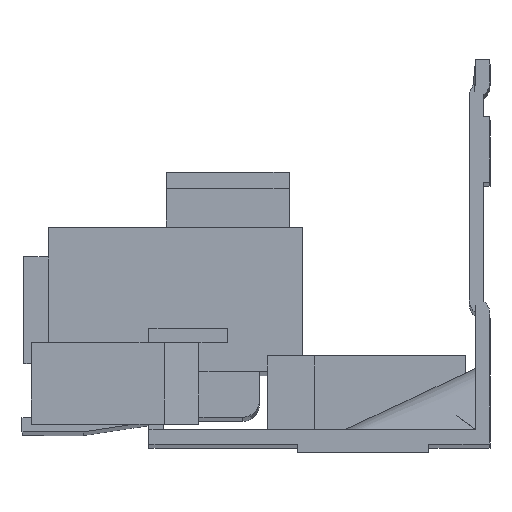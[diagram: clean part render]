
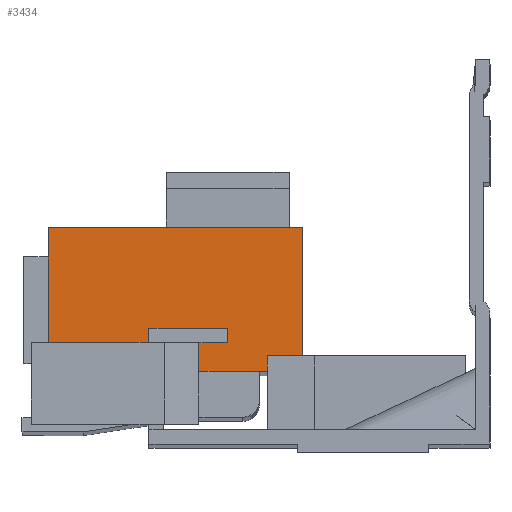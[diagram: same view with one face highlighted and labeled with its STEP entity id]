
A CAD part, front view. The second image highlights one B-rep face of the part: STEP entity #3434.
In plain terms, the highlighted planar face has unit normal (0, -1, 0).
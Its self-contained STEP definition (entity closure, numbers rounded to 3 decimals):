
#257 = FACE_OUTER_BOUND ( 'NONE', #1085, .T. ) ;
#580 = LINE ( 'NONE', #3907, #581 ) ;
#581 = VECTOR ( 'NONE', #3908, 1000. ) ;
#616 = LINE ( 'NONE', #3944, #617 ) ;
#617 = VECTOR ( 'NONE', #3945, 1000. ) ;
#636 = LINE ( 'NONE', #3964, #637 ) ;
#637 = VECTOR ( 'NONE', #3965, 1000. ) ;
#652 = LINE ( 'NONE', #3980, #653 ) ;
#653 = VECTOR ( 'NONE', #3981, 1000. ) ;
#662 = LINE ( 'NONE', #3990, #663 ) ;
#663 = VECTOR ( 'NONE', #3991, 1000. ) ;
#664 = LINE ( 'NONE', #3992, #665 ) ;
#665 = VECTOR ( 'NONE', #3993, 1000. ) ;
#666 = LINE ( 'NONE', #3994, #667 ) ;
#667 = VECTOR ( 'NONE', #3995, 1000. ) ;
#668 = LINE ( 'NONE', #3996, #669 ) ;
#669 = VECTOR ( 'NONE', #3997, 1000. ) ;
#676 = LINE ( 'NONE', #4004, #677 ) ;
#677 = VECTOR ( 'NONE', #4005, 1000. ) ;
#678 = LINE ( 'NONE', #4006, #679 ) ;
#679 = VECTOR ( 'NONE', #4007, 1000. ) ;
#680 = LINE ( 'NONE', #4008, #681 ) ;
#681 = VECTOR ( 'NONE', #4009, 1000. ) ;
#682 = LINE ( 'NONE', #4010, #683 ) ;
#683 = VECTOR ( 'NONE', #4011, 1000. ) ;
#1085 = EDGE_LOOP ( 'NONE', ( #1276, #1277, #1278, #1279, #1280, #1281, #1282, #1283, #1284, #1285, #1286, #1287 ) ) ;
#1276 = ORIENTED_EDGE ( 'NONE', *, *, #4658, .T. ) ;
#1277 = ORIENTED_EDGE ( 'NONE', *, *, #4659, .T. ) ;
#1278 = ORIENTED_EDGE ( 'NONE', *, *, #4660, .T. ) ;
#1279 = ORIENTED_EDGE ( 'NONE', *, *, #4661, .T. ) ;
#1280 = ORIENTED_EDGE ( 'NONE', *, *, #4603, .T. ) ;
#1281 = ORIENTED_EDGE ( 'NONE', *, *, #4636, .T. ) ;
#1282 = ORIENTED_EDGE ( 'NONE', *, *, #4626, .F. ) ;
#1283 = ORIENTED_EDGE ( 'NONE', *, *, #4646, .F. ) ;
#1284 = ORIENTED_EDGE ( 'NONE', *, *, #4651, .F. ) ;
#1285 = ORIENTED_EDGE ( 'NONE', *, *, #4652, .F. ) ;
#1286 = ORIENTED_EDGE ( 'NONE', *, *, #4653, .F. ) ;
#1287 = ORIENTED_EDGE ( 'NONE', *, *, #4654, .T. ) ;
#2152 = PLANE ( 'NONE',  #3558 ) ;
#2153 = CARTESIAN_POINT ( 'NONE',  ( -49.9, -20., -27.058 ) ) ;
#2154 = DIRECTION ( 'NONE',  ( 0., 1., 0. ) ) ;
#2155 = DIRECTION ( 'NONE',  ( -1., 0., 0. ) ) ;
#3434 = ADVANCED_FACE ( 'NONE', ( #257 ), #2152, .F. ) ;
#3558 = AXIS2_PLACEMENT_3D ( 'NONE', #2153, #2154, #2155 ) ;
#3907 = CARTESIAN_POINT ( 'NONE',  ( -53.9, -20., -9.558 ) ) ;
#3908 = DIRECTION ( 'NONE',  ( -1., 0., 0. ) ) ;
#3944 = CARTESIAN_POINT ( 'NONE',  ( -49.9, -20., -23.558 ) ) ;
#3945 = DIRECTION ( 'NONE',  ( -1., 0., 0. ) ) ;
#3964 = CARTESIAN_POINT ( 'NONE',  ( -53.9, -20., -29.558 ) ) ;
#3965 = DIRECTION ( 'NONE',  ( 0., 0., -1. ) ) ;
#3980 = CARTESIAN_POINT ( 'NONE',  ( -41.6, -20., -35.931 ) ) ;
#3981 = DIRECTION ( 'NONE',  ( 0., 0., -1. ) ) ;
#3990 = CARTESIAN_POINT ( 'NONE',  ( -41.6, -20., -21.858 ) ) ;
#3991 = DIRECTION ( 'NONE',  ( -1., 0., 0. ) ) ;
#3992 = CARTESIAN_POINT ( 'NONE',  ( -32., -20., -21.831 ) ) ;
#3993 = DIRECTION ( 'NONE',  ( 0., 0., 1. ) ) ;
#3994 = CARTESIAN_POINT ( 'NONE',  ( -32., -20., -23.608 ) ) ;
#3995 = DIRECTION ( 'NONE',  ( 1., 0., 0. ) ) ;
#3996 = CARTESIAN_POINT ( 'NONE',  ( -35.5, -20., -27.058 ) ) ;
#3997 = DIRECTION ( 'NONE',  ( 0., 0., -1. ) ) ;
#4004 = CARTESIAN_POINT ( 'NONE',  ( -49.9, -20., -27.058 ) ) ;
#4005 = DIRECTION ( 'NONE',  ( 1., 0., 0. ) ) ;
#4006 = CARTESIAN_POINT ( 'NONE',  ( -27.15, -20., -27.058 ) ) ;
#4007 = DIRECTION ( 'NONE',  ( 0., 0., 1. ) ) ;
#4008 = CARTESIAN_POINT ( 'NONE',  ( -49.9, -20., -25.181 ) ) ;
#4009 = DIRECTION ( 'NONE',  ( 1., 0., 0. ) ) ;
#4010 = CARTESIAN_POINT ( 'NONE',  ( -22.9, -20., -27.058 ) ) ;
#4011 = DIRECTION ( 'NONE',  ( 0., 0., 1. ) ) ;
#4247 = CARTESIAN_POINT ( 'NONE',  ( -53.9, -20., -23.558 ) ) ;
#4250 = CARTESIAN_POINT ( 'NONE',  ( -22.9, -20., -9.558 ) ) ;
#4289 = CARTESIAN_POINT ( 'NONE',  ( -41.6, -20., -21.858 ) ) ;
#4294 = CARTESIAN_POINT ( 'NONE',  ( -32., -20., -23.608 ) ) ;
#4295 = CARTESIAN_POINT ( 'NONE',  ( -22.9, -20., -25.181 ) ) ;
#4296 = CARTESIAN_POINT ( 'NONE',  ( -32., -20., -21.858 ) ) ;
#4297 = CARTESIAN_POINT ( 'NONE',  ( -27.15, -20., -25.181 ) ) ;
#4298 = CARTESIAN_POINT ( 'NONE',  ( -27.15, -20., -27.058 ) ) ;
#4353 = CARTESIAN_POINT ( 'NONE',  ( -35.5, -20., -23.608 ) ) ;
#4451 = CARTESIAN_POINT ( 'NONE',  ( -35.5, -20., -27.058 ) ) ;
#4482 = CARTESIAN_POINT ( 'NONE',  ( -41.6, -20., -23.558 ) ) ;
#4495 = CARTESIAN_POINT ( 'NONE',  ( -53.9, -20., -9.558 ) ) ;
#4603 = EDGE_CURVE ( 'NONE', #4739, #4973, #580, .T. ) ;
#4626 = EDGE_CURVE ( 'NONE', #4965, #4736, #616, .T. ) ;
#4636 = EDGE_CURVE ( 'NONE', #4973, #4736, #636, .T. ) ;
#4646 = EDGE_CURVE ( 'NONE', #4778, #4965, #652, .T. ) ;
#4651 = EDGE_CURVE ( 'NONE', #4785, #4778, #662, .T. ) ;
#4652 = EDGE_CURVE ( 'NONE', #4783, #4785, #664, .T. ) ;
#4653 = EDGE_CURVE ( 'NONE', #4842, #4783, #666, .T. ) ;
#4654 = EDGE_CURVE ( 'NONE', #4842, #4940, #668, .T. ) ;
#4658 = EDGE_CURVE ( 'NONE', #4940, #4787, #676, .T. ) ;
#4659 = EDGE_CURVE ( 'NONE', #4787, #4786, #678, .T. ) ;
#4660 = EDGE_CURVE ( 'NONE', #4786, #4784, #680, .T. ) ;
#4661 = EDGE_CURVE ( 'NONE', #4784, #4739, #682, .T. ) ;
#4736 = VERTEX_POINT ( 'NONE', #4247 ) ;
#4739 = VERTEX_POINT ( 'NONE', #4250 ) ;
#4778 = VERTEX_POINT ( 'NONE', #4289 ) ;
#4783 = VERTEX_POINT ( 'NONE', #4294 ) ;
#4784 = VERTEX_POINT ( 'NONE', #4295 ) ;
#4785 = VERTEX_POINT ( 'NONE', #4296 ) ;
#4786 = VERTEX_POINT ( 'NONE', #4297 ) ;
#4787 = VERTEX_POINT ( 'NONE', #4298 ) ;
#4842 = VERTEX_POINT ( 'NONE', #4353 ) ;
#4940 = VERTEX_POINT ( 'NONE', #4451 ) ;
#4965 = VERTEX_POINT ( 'NONE', #4482 ) ;
#4973 = VERTEX_POINT ( 'NONE', #4495 ) ;
